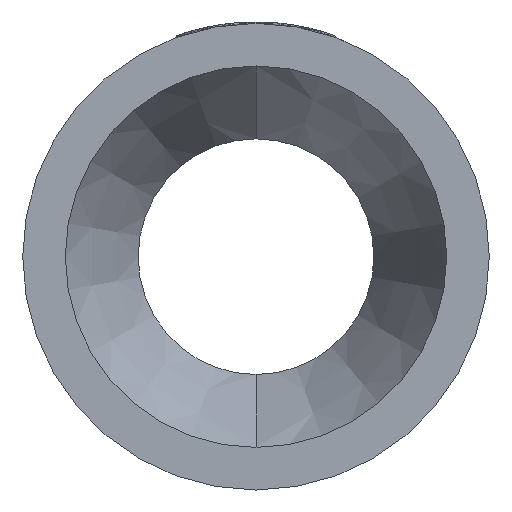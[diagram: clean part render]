
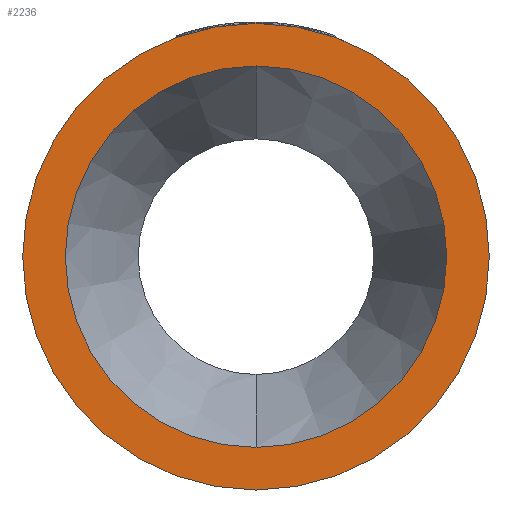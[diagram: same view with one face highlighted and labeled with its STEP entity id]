
A CAD part, left-side view. The second image highlights one B-rep face of the part: STEP entity #2236.
In plain terms, the highlighted planar face has unit normal (-1, 0, 0).
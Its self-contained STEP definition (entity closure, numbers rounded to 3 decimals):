
#51 = EDGE_LOOP ( 'NONE', ( #227, #2600 ) ) ;
#147 = AXIS2_PLACEMENT_3D ( 'NONE', #2981, #1082, #1740 ) ;
#227 = ORIENTED_EDGE ( 'NONE', *, *, #2729, .T. ) ;
#439 = DIRECTION ( 'NONE',  ( 0., 0., -1. ) ) ;
#445 = DIRECTION ( 'NONE',  ( 1., 0., 0. ) ) ;
#452 = CARTESIAN_POINT ( 'NONE',  ( 0., 65.4, 0. ) ) ;
#455 = VERTEX_POINT ( 'NONE', #3111 ) ;
#533 = PLANE ( 'NONE',  #783 ) ;
#576 = CIRCLE ( 'NONE', #845, 65.4 ) ;
#663 = DIRECTION ( 'NONE',  ( 0., 0., 1. ) ) ;
#683 = DIRECTION ( 'NONE',  ( -1., 0., 0. ) ) ;
#696 = CARTESIAN_POINT ( 'NONE',  ( 0., 0., 0. ) ) ;
#768 = VERTEX_POINT ( 'NONE', #2381 ) ;
#783 = AXIS2_PLACEMENT_3D ( 'NONE', #452, #445, #439 ) ;
#845 = AXIS2_PLACEMENT_3D ( 'NONE', #696, #683, #663 ) ;
#924 = AXIS2_PLACEMENT_3D ( 'NONE', #3386, #3375, #3347 ) ;
#1076 = CIRCLE ( 'NONE', #1300, 80. ) ;
#1082 = DIRECTION ( 'NONE',  ( -1., 0., 0. ) ) ;
#1085 = CIRCLE ( 'NONE', #924, 80. ) ;
#1207 = CARTESIAN_POINT ( 'NONE',  ( 0., 0., 80. ) ) ;
#1300 = AXIS2_PLACEMENT_3D ( 'NONE', #3221, #3210, #3199 ) ;
#1390 = VERTEX_POINT ( 'NONE', #1207 ) ;
#1529 = ORIENTED_EDGE ( 'NONE', *, *, #1802, .F. ) ;
#1673 = EDGE_LOOP ( 'NONE', ( #1529, #3357 ) ) ;
#1740 = DIRECTION ( 'NONE',  ( 0., 0., 1. ) ) ;
#1802 = EDGE_CURVE ( 'NONE', #768, #455, #3437, .T. ) ;
#2236 = ADVANCED_FACE ( 'NONE', ( #3503, #2838 ), #533, .F. ) ;
#2299 = CARTESIAN_POINT ( 'NONE',  ( 0., 0., -80. ) ) ;
#2381 = CARTESIAN_POINT ( 'NONE',  ( 0., 0., 65.4 ) ) ;
#2600 = ORIENTED_EDGE ( 'NONE', *, *, #2750, .T. ) ;
#2729 = EDGE_CURVE ( 'NONE', #1390, #3030, #1085, .T. ) ;
#2750 = EDGE_CURVE ( 'NONE', #3030, #1390, #1076, .T. ) ;
#2838 = FACE_OUTER_BOUND ( 'NONE', #51, .T. ) ;
#2854 = EDGE_CURVE ( 'NONE', #455, #768, #576, .T. ) ;
#2981 = CARTESIAN_POINT ( 'NONE',  ( 0., 0., 0. ) ) ;
#3030 = VERTEX_POINT ( 'NONE', #2299 ) ;
#3111 = CARTESIAN_POINT ( 'NONE',  ( 0., 0., -65.4 ) ) ;
#3199 = DIRECTION ( 'NONE',  ( 0., 0., 1. ) ) ;
#3210 = DIRECTION ( 'NONE',  ( -1., 0., 0. ) ) ;
#3221 = CARTESIAN_POINT ( 'NONE',  ( 0., 0., 0. ) ) ;
#3347 = DIRECTION ( 'NONE',  ( 0., 0., 1. ) ) ;
#3357 = ORIENTED_EDGE ( 'NONE', *, *, #2854, .F. ) ;
#3375 = DIRECTION ( 'NONE',  ( -1., 0., 0. ) ) ;
#3386 = CARTESIAN_POINT ( 'NONE',  ( 0., 0., 0. ) ) ;
#3437 = CIRCLE ( 'NONE', #147, 65.4 ) ;
#3503 = FACE_BOUND ( 'NONE', #1673, .T. ) ;
